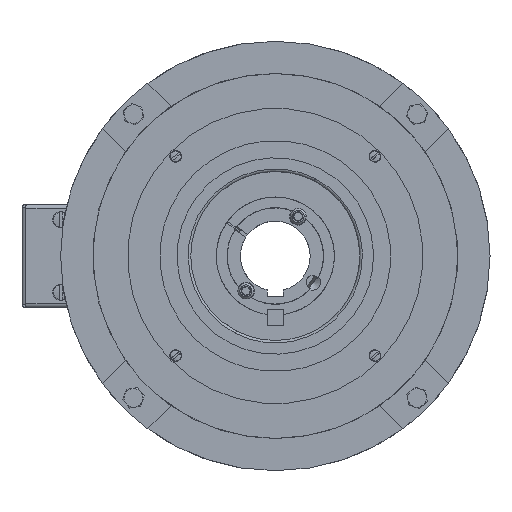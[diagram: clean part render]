
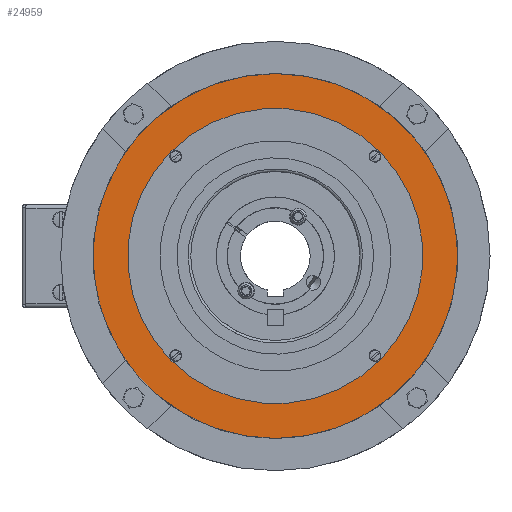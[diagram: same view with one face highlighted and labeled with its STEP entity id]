
A CAD part, front view. The second image highlights one B-rep face of the part: STEP entity #24959.
In plain terms, the highlighted planar face has unit normal (0, -1, 0).
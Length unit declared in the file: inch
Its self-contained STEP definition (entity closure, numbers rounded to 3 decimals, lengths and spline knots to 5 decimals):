
#2043 = EDGE_CURVE ( 'NONE', #4705, #14177, #9340, .T. ) ;
#2255 = DIRECTION ( 'NONE',  ( 0., 1., 0. ) ) ;
#2375 = DIRECTION ( 'NONE',  ( 0., 1., 0. ) ) ;
#2843 = CARTESIAN_POINT ( 'NONE',  ( 0., -0.53125, 0. ) ) ;
#4343 = ORIENTED_EDGE ( 'NONE', *, *, #2043, .T. ) ;
#4705 = VERTEX_POINT ( 'NONE', #26931 ) ;
#5461 = CARTESIAN_POINT ( 'NONE',  ( 0., -0.53125, -4.25 ) ) ;
#6062 = ORIENTED_EDGE ( 'NONE', *, *, #7674, .F. ) ;
#6437 = CARTESIAN_POINT ( 'NONE',  ( 0., -0.53125, 0. ) ) ;
#7668 = EDGE_LOOP ( 'NONE', ( #4343, #34387 ) ) ;
#7674 = EDGE_CURVE ( 'NONE', #9283, #29803, #31033, .T. ) ;
#7822 = DIRECTION ( 'NONE',  ( 0., 0., -1. ) ) ;
#8430 = DIRECTION ( 'NONE',  ( 0., -1., 0. ) ) ;
#9172 = AXIS2_PLACEMENT_3D ( 'NONE', #31281, #16385, #7822 ) ;
#9283 = VERTEX_POINT ( 'NONE', #35730 ) ;
#9340 = CIRCLE ( 'NONE', #31543, 3.4375 ) ;
#10673 = ORIENTED_EDGE ( 'NONE', *, *, #32869, .F. ) ;
#12595 = DIRECTION ( 'NONE',  ( 0., 1., 0. ) ) ;
#12976 = DIRECTION ( 'NONE',  ( 0., 0., -1. ) ) ;
#14177 = VERTEX_POINT ( 'NONE', #23033 ) ;
#14956 = DIRECTION ( 'NONE',  ( 0., 0., -1. ) ) ;
#15536 = CIRCLE ( 'NONE', #9172, 3.4375 ) ;
#16385 = DIRECTION ( 'NONE',  ( 0., 1., 0. ) ) ;
#17675 = DIRECTION ( 'NONE',  ( 0., 0., -1. ) ) ;
#17978 = CARTESIAN_POINT ( 'NONE',  ( -4.25, -0.53125, 0. ) ) ;
#19996 = CIRCLE ( 'NONE', #22511, 4.25 ) ;
#22511 = AXIS2_PLACEMENT_3D ( 'NONE', #2843, #2255, #14956 ) ;
#23033 = CARTESIAN_POINT ( 'NONE',  ( -2.43068, -0.53125, 2.43068 ) ) ;
#23071 = EDGE_LOOP ( 'NONE', ( #10673, #6062 ) ) ;
#23922 = DIRECTION ( 'NONE',  ( 0., 0., -1. ) ) ;
#24959 = ADVANCED_FACE ( 'NONE', ( #29888, #26519 ), #30077, .T. ) ;
#26519 = FACE_OUTER_BOUND ( 'NONE', #23071, .T. ) ;
#26931 = CARTESIAN_POINT ( 'NONE',  ( 2.43068, -0.53125, -2.43068 ) ) ;
#29803 = VERTEX_POINT ( 'NONE', #5461 ) ;
#29888 = FACE_BOUND ( 'NONE', #7668, .T. ) ;
#30077 = PLANE ( 'NONE',  #31448 ) ;
#30912 = CARTESIAN_POINT ( 'NONE',  ( 0., -0.53125, 0. ) ) ;
#31033 = CIRCLE ( 'NONE', #39217, 4.25 ) ;
#31281 = CARTESIAN_POINT ( 'NONE',  ( 0., -0.53125, 0. ) ) ;
#31448 = AXIS2_PLACEMENT_3D ( 'NONE', #17978, #8430, #23922 ) ;
#31543 = AXIS2_PLACEMENT_3D ( 'NONE', #30912, #2375, #17675 ) ;
#32725 = EDGE_CURVE ( 'NONE', #14177, #4705, #15536, .T. ) ;
#32869 = EDGE_CURVE ( 'NONE', #29803, #9283, #19996, .T. ) ;
#34387 = ORIENTED_EDGE ( 'NONE', *, *, #32725, .T. ) ;
#35730 = CARTESIAN_POINT ( 'NONE',  ( 0., -0.53125, 4.25 ) ) ;
#39217 = AXIS2_PLACEMENT_3D ( 'NONE', #6437, #12595, #12976 ) ;
